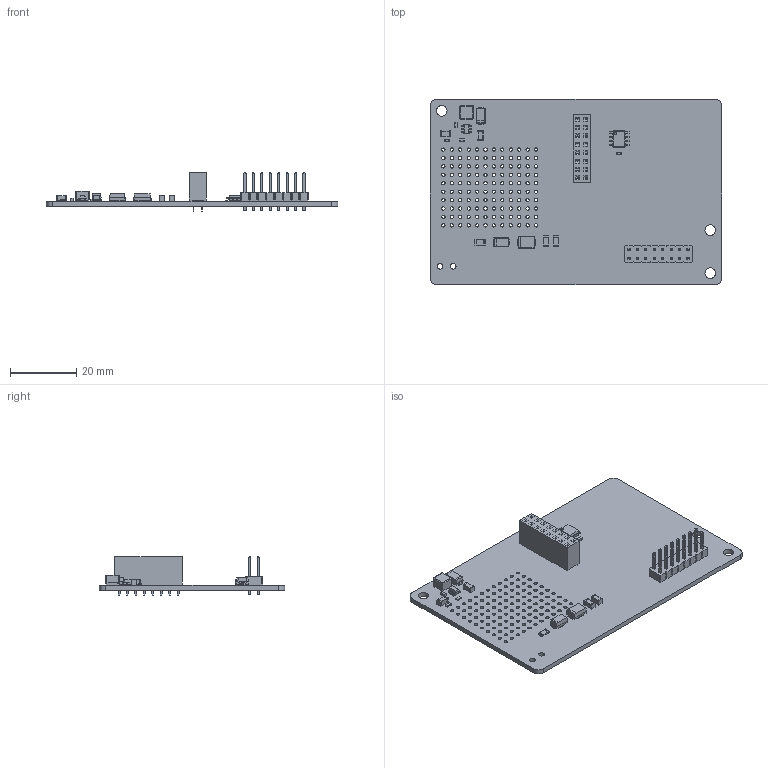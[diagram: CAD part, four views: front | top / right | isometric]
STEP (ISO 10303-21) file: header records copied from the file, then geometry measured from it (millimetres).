
FILE_DESCRIPTION(('KiCad electronic assembly'),'2;1');
FILE_NAME('AP1_Plantilla.step','2026-10-06T22:26:22',('Pcbnew'),('Kicad' ),'Open CASCADE STEP processor 7.6','KiCad to STEP converter', 'Unknown');
FILE_SCHEMA(('AUTOMOTIVE_DESIGN { 1 0 10303 214 1 1 1 1 }'));
Length unit declared in the file: millimetre
Products named in the file (13): AP1_Plantilla 1; C_1206_3216Metric; R_0603_1608Metric; Fuse_1206_3216Metric; D_SMB; L_Changjiang_FNR4030S; SOIC-8_3.9x4.9mm_P1.27mm; SOT-23-6; D_SMA; C_0603_1608Metric; PinHeader_2x08_P2.54mm_Vertical; PinSocket_2x08_P2.54mm_Vertical; AP1_Plantilla_PCB
Assembly tree (18 placements, depth 2):
  AP1_Plantilla 1
    C_1206_3216Metric  x4
    R_0603_1608Metric  x2
    Fuse_1206_3216Metric
    D_SMB
    L_Changjiang_FNR4030S
    SOIC-8_3.9x4.9mm_P1.27mm
    SOT-23-6
    D_SMA  x2
    C_0603_1608Metric  x2
    PinHeader_2x08_P2.54mm_Vertical
    PinSocket_2x08_P2.54mm_Vertical
    AP1_Plantilla_PCB
Bounding box: 88 x 56 x 11.64 mm (x, y, z)
Volume: 8565.2 mm3; surface area: 13027.6 mm2
Topology: 18 solids, 18 shells, 1610 faces, 4142 edges, 2644 vertices
Faces by surface type: plane 1180, cylinder 334, bspline 92, sphere 4
Full cylindrical faces by diameter (mm): 0.6 x1, 1 x152, 1.7 x2, 3.2 x3
Entity records: 43407 total; most frequent: CARTESIAN_POINT 7844, ORIENTED_EDGE 7352, DIRECTION 6852, EDGE_CURVE 3676, LINE 3020, VECTOR 3020, VERTEX_POINT 2340, AXIS2_PLACEMENT_3D 1916
